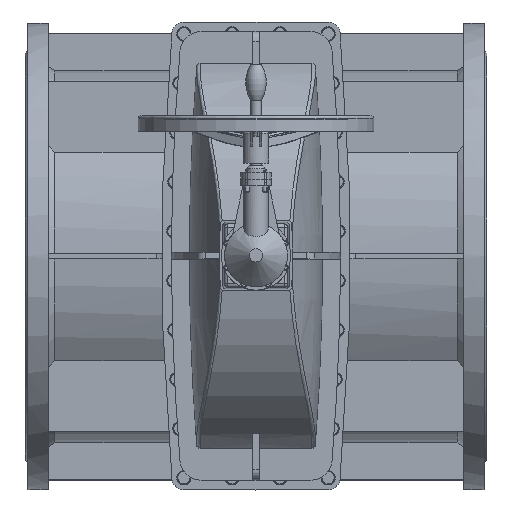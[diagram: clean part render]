
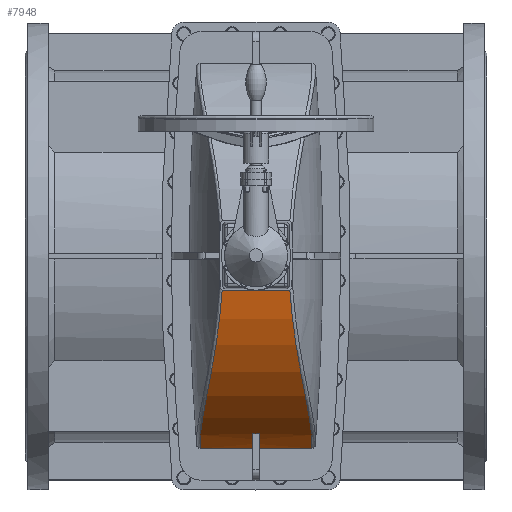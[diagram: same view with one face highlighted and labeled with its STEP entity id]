
A CAD part, top view. The second image highlights one B-rep face of the part: STEP entity #7948.
In plain terms, the highlighted cylindrical face has radius 402.667 mm (diameter 805.333 mm), a partial arc.
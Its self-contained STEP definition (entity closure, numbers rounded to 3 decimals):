
#7948=ADVANCED_FACE('',(#15880),#15882,.T.);
#15880=FACE_BOUND('',#15881,.T.);
#15881=EDGE_LOOP('',(#28736,#28737,#28738,#28739,#28740,#28741,#28742,#28743));
#15882=CYLINDRICAL_SURFACE('',#15883,402.667);
#15883=AXIS2_PLACEMENT_3D('',#15884,#15885,#15886);
#15884=CARTESIAN_POINT('',(0.,-131.005,-39.5));
#15885=DIRECTION('',(0.,1.,0.));
#15886=DIRECTION('',(-0.933,0.,0.36));
#28736=ORIENTED_EDGE('',*,*,#33214,.F.);
#28737=ORIENTED_EDGE('',*,*,#33215,.F.);
#28738=ORIENTED_EDGE('',*,*,#33216,.F.);
#28739=ORIENTED_EDGE('',*,*,#33217,.F.);
#28740=ORIENTED_EDGE('',*,*,#33218,.F.);
#28741=ORIENTED_EDGE('',*,*,#33219,.T.);
#28742=ORIENTED_EDGE('',*,*,#33220,.F.);
#28743=ORIENTED_EDGE('',*,*,#33221,.F.);
#33214=EDGE_CURVE('',#37386,#37387,#37388,.F.);
#33215=EDGE_CURVE('',#37389,#37386,#37390,.T.);
#33216=EDGE_CURVE('',#37391,#37389,#37392,.T.);
#33217=EDGE_CURVE('',#37393,#37391,#37394,.T.);
#33218=EDGE_CURVE('',#37395,#37393,#37396,.F.);
#33219=EDGE_CURVE('',#37395,#37397,#37398,.T.);
#33220=EDGE_CURVE('',#37399,#37397,#37400,.T.);
#33221=EDGE_CURVE('',#37387,#37399,#37401,.T.);
#37386=VERTEX_POINT('',#52712);
#37387=VERTEX_POINT('',#52713);
#37388=CIRCLE('',#52714,402.667);
#37389=VERTEX_POINT('',#52718);
#37390=LINE('',#52719,#52720);
#37391=VERTEX_POINT('',#52722);
#37392=CIRCLE('',#52723,402.667);
#37393=VERTEX_POINT('',#52727);
#37394=LINE('',#52728,#52729);
#37395=VERTEX_POINT('',#52731);
#37396=B_SPLINE_CURVE_WITH_KNOTS('',3,
(#52732,#52733,#52734,#52735,#52736,#52737,#52738,#52739,#52740,#52741,#52742,#52743,
#52744,#52745),
.UNSPECIFIED.,.F.,.F.,
(4,1,1,1,1,1,1,1,1,1,1,4),
(0.,0.098,0.184,0.264,0.352,0.451,
0.56,0.671,0.775,0.864,0.938,
1.),
.UNSPECIFIED.);
#37397=VERTEX_POINT('',#52746);
#37398=LINE('',#52747,#52748);
#37399=VERTEX_POINT('',#52750);
#37400=B_SPLINE_CURVE_WITH_KNOTS('',3,
(#52751,#52752,#52753,#52754,#52755,#52756,#52757,#52758,#52759,#52760,#52761,#52762,
#52763,#52764),
.UNSPECIFIED.,.F.,.F.,
(4,1,1,1,1,1,1,1,1,1,1,4),
(0.,0.098,0.184,0.264,0.352,0.451,
0.56,0.671,0.775,0.864,0.938,
1.),
.UNSPECIFIED.);
#37401=LINE('',#52765,#52766);
#52712=CARTESIAN_POINT('',(-346.675,6.583,165.333));
#52713=CARTESIAN_POINT('',(-375.718,6.583,105.333));
#52714=AXIS2_PLACEMENT_3D('',#52715,#52716,#52717);
#52715=CARTESIAN_POINT('',(0.,6.583,-39.5));
#52716=DIRECTION('',(0.,1.,0.));
#52717=DIRECTION('',(-0.933,0.,0.36));
#52718=CARTESIAN_POINT('',(-346.675,-6.583,165.333));
#52719=CARTESIAN_POINT('',(-346.675,-6.583,165.333));
#52720=VECTOR('',#52721,1.);
#52721=DIRECTION('',(0.,1.,0.));
#52722=CARTESIAN_POINT('',(-375.718,-6.583,105.333));
#52723=AXIS2_PLACEMENT_3D('',#52724,#52725,#52726);
#52724=CARTESIAN_POINT('',(0.,-6.583,-39.5));
#52725=DIRECTION('',(0.,1.,0.));
#52726=DIRECTION('',(-0.933,0.,0.36));
#52727=CARTESIAN_POINT('',(-375.718,-109.116,105.333));
#52728=CARTESIAN_POINT('',(-375.718,-109.116,105.333));
#52729=VECTOR('',#52730,1.);
#52730=DIRECTION('',(0.,1.,0.));
#52731=CARTESIAN_POINT('',(-67.731,-65.981,357.429));
#52732=CARTESIAN_POINT('',(-375.718,-109.116,105.333));
#52733=CARTESIAN_POINT('',(-370.815,-109.603,118.052));
#52734=CARTESIAN_POINT('',(-360.365,-109.589,141.533));
#52735=CARTESIAN_POINT('',(-342.224,-107.979,173.635));
#52736=CARTESIAN_POINT('',(-322.263,-105.121,202.767));
#52737=CARTESIAN_POINT('',(-298.729,-101.024,231.435));
#52738=CARTESIAN_POINT('',(-269.814,-95.486,260.441));
#52739=CARTESIAN_POINT('',(-235.423,-88.802,288.235));
#52740=CARTESIAN_POINT('',(-197.65,-81.891,312.264));
#52741=CARTESIAN_POINT('',(-159.769,-75.81,330.843));
#52742=CARTESIAN_POINT('',(-125.034,-71.192,343.768));
#52743=CARTESIAN_POINT('',(-94.814,-68.039,352.188));
#52744=CARTESIAN_POINT('',(-76.275,-66.529,355.971));
#52745=CARTESIAN_POINT('',(-67.731,-65.981,357.429));
#52746=CARTESIAN_POINT('',(-67.731,65.981,357.429));
#52747=CARTESIAN_POINT('',(-67.731,-65.981,357.429));
#52748=VECTOR('',#52749,1.);
#52749=DIRECTION('',(0.,1.,0.));
#52750=CARTESIAN_POINT('',(-375.718,109.116,105.333));
#52751=CARTESIAN_POINT('',(-375.718,109.116,105.333));
#52752=CARTESIAN_POINT('',(-370.815,109.603,118.052));
#52753=CARTESIAN_POINT('',(-360.365,109.589,141.533));
#52754=CARTESIAN_POINT('',(-342.224,107.979,173.635));
#52755=CARTESIAN_POINT('',(-322.263,105.121,202.767));
#52756=CARTESIAN_POINT('',(-298.729,101.024,231.435));
#52757=CARTESIAN_POINT('',(-269.814,95.486,260.441));
#52758=CARTESIAN_POINT('',(-235.423,88.802,288.235));
#52759=CARTESIAN_POINT('',(-197.65,81.891,312.264));
#52760=CARTESIAN_POINT('',(-159.769,75.81,330.843));
#52761=CARTESIAN_POINT('',(-125.034,71.192,343.768));
#52762=CARTESIAN_POINT('',(-94.814,68.039,352.188));
#52763=CARTESIAN_POINT('',(-76.275,66.529,355.971));
#52764=CARTESIAN_POINT('',(-67.731,65.981,357.429));
#52765=CARTESIAN_POINT('',(-375.718,6.583,105.333));
#52766=VECTOR('',#52767,1.);
#52767=DIRECTION('',(0.,1.,0.));
